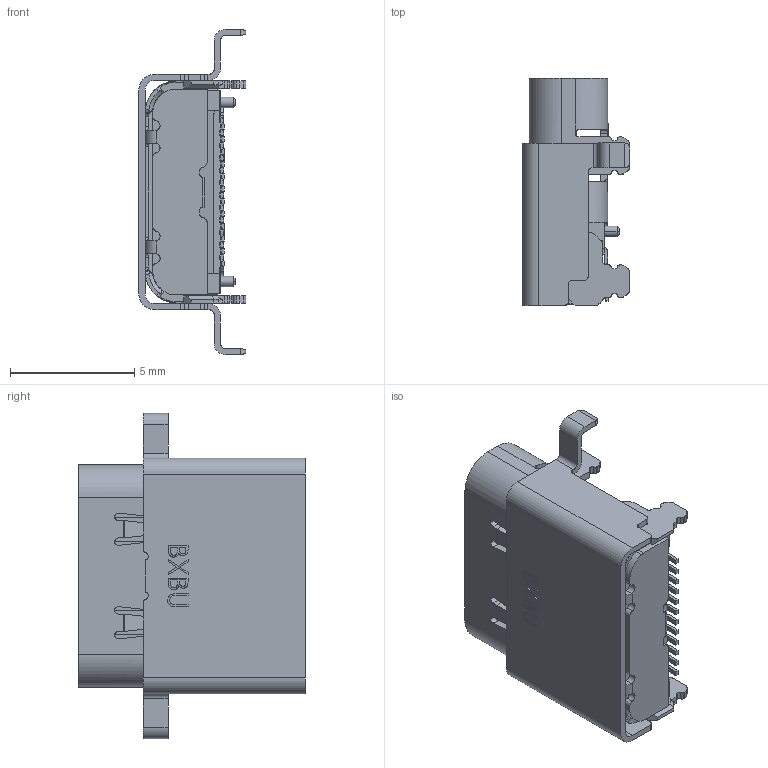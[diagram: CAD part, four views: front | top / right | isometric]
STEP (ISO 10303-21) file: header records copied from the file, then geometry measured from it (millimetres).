
FILE_DESCRIPTION((' '),'2;1');
FILE_NAME( 'U5147-24PN0.9J9.17L.stp', '2026-05-09T10:28:13', (' '), ('--- ---'), ' V2026.1 Dec 31 2025', ' 2026 (c)', ' ');
FILE_SCHEMA(('AP242_MANAGED_MODEL_BASED_3D_ENGINEERING_MIM_LF { 1 0 10303 442 1 1 4 }'));
Length unit declared in the file: millimetre
Products named in the file (3): S-12FS4-R03; 1.57 Main; U5147-24PN0.9J9.17L(2)
Assembly tree (2 placements, depth 2):
  U5147-24PN0.9J9.17L(2)
    S-12FS4-R03
    1.57 Main
Bounding box: 4.34 x 9.12 x 13.08 mm (x, y, z)
Volume: 158.2 mm3; surface area: 810.3 mm2
Topology: 2 solids, 48 shells, 1801 faces, 4976 edges, 3263 vertices
Faces by surface type: plane 1226, cylinder 472, bspline 75, cone 28
Entity records: 60878 total; most frequent: CARTESIAN_POINT 16089, ORIENTED_EDGE 9952, DIRECTION 8296, EDGE_CURVE 4976, VECTOR 3674, LINE 3674, VERTEX_POINT 3263, AXIS2_PLACEMENT_3D 2311
